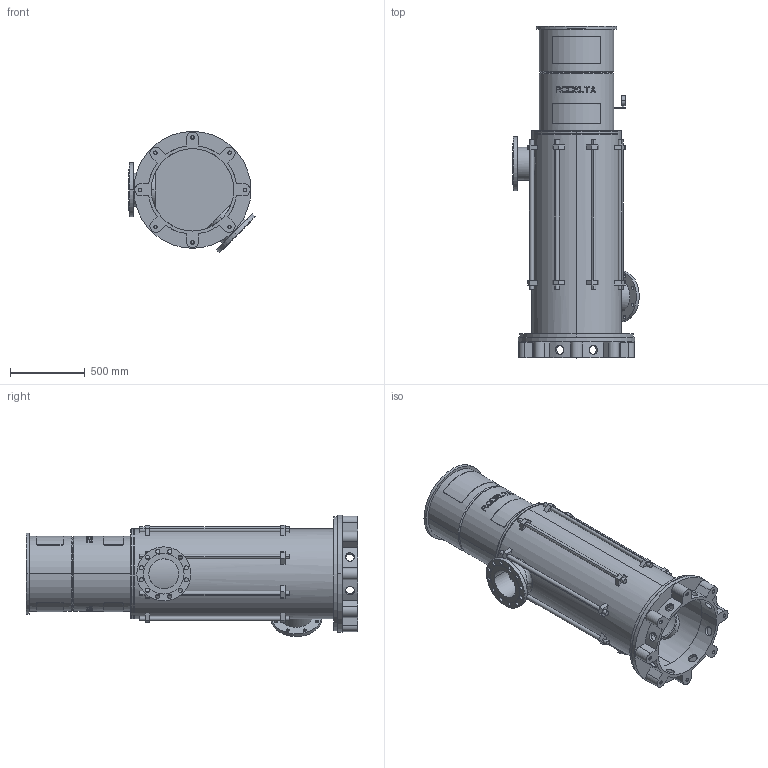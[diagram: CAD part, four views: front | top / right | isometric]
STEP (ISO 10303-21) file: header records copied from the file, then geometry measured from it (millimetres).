
FILE_DESCRIPTION((''),'2;1');
FILE_NAME('LS8_3TR_0GR','2025-10-17T13:45:18',('Lyritlocal'),(''),'CREO PARAMETRIC BY PTC INC, 2022014','CREO PARAMETRIC BY PTC INC, 2022014','');
FILE_SCHEMA(('CONFIG_CONTROL_DESIGN'));
Length unit declared in the file: millimetre
Products named in the file (1): LS8_3TR_0GR
Bounding box: 843.61 x 2214 x 808.61 mm (x, y, z)
Volume: 77041410.3 mm3; surface area: 10861971.5 mm2
Topology: 3 solids, 11 shells, 723 faces, 1878 edges, 1246 vertices
Faces by surface type: plane 440, cylinder 267, cone 12, bspline 4
Entity records: 23780 total; most frequent: CARTESIAN_POINT 6099, ORIENTED_EDGE 3724, DIRECTION 3488, EDGE_CURVE 1878, AXIS2_PLACEMENT_3D 1302, VERTEX_POINT 1246, EDGE_LOOP 888, VECTOR 884
